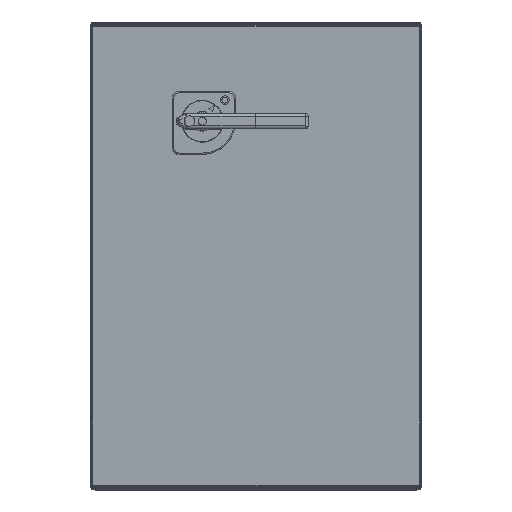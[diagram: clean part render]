
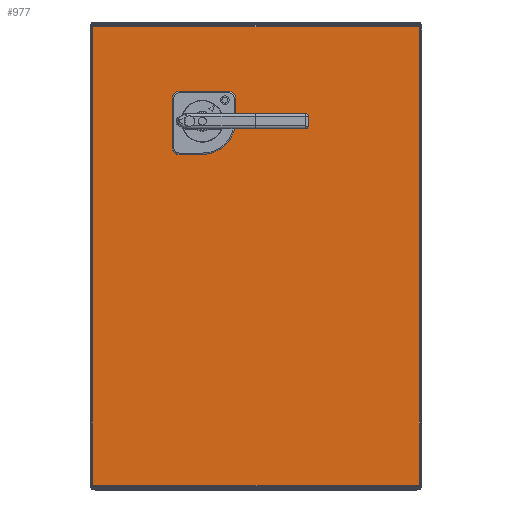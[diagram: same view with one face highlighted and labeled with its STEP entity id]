
A CAD part, top view. The second image highlights one B-rep face of the part: STEP entity #977.
In plain terms, the highlighted planar face has unit normal (0, 0, 1).
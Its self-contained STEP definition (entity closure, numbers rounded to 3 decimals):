
#977=ADVANCED_FACE('',(#1129),#1022,.T.);
#1022=PLANE('',#3140);
#1129=FACE_OUTER_BOUND('',#1254,.T.);
#1254=EDGE_LOOP('',(#1810,#1811,#1812,#1813));
#1810=ORIENTED_EDGE('',*,*,#2489,.T.);
#1811=ORIENTED_EDGE('',*,*,#2468,.F.);
#1812=ORIENTED_EDGE('',*,*,#2482,.T.);
#1813=ORIENTED_EDGE('',*,*,#2475,.F.);
#2084=VERTEX_POINT('',#5105);
#2087=VERTEX_POINT('',#5110);
#2092=VERTEX_POINT('',#5123);
#2093=VERTEX_POINT('',#5125);
#2468=EDGE_CURVE('',#2087,#2084,#2683,.T.);
#2475=EDGE_CURVE('',#2093,#2092,#2688,.T.);
#2482=EDGE_CURVE('',#2087,#2092,#2693,.T.);
#2489=EDGE_CURVE('',#2093,#2084,#2698,.T.);
#2683=LINE('',#5111,#2890);
#2688=LINE('',#5126,#2895);
#2693=LINE('',#5139,#2900);
#2698=LINE('',#5152,#2905);
#2890=VECTOR('',#3766,1.);
#2895=VECTOR('',#3779,1.);
#2900=VECTOR('',#3792,1.);
#2905=VECTOR('',#3805,1.);
#3140=AXIS2_PLACEMENT_3D('',#5160,#3813,#3814);
#3766=DIRECTION('',(-1.,0.,0.));
#3779=DIRECTION('',(1.,0.,0.));
#3792=DIRECTION('',(0.,1.,0.));
#3805=DIRECTION('',(0.,-1.,0.));
#3813=DIRECTION('',(0.,0.,1.));
#3814=DIRECTION('',(0.,1.,0.));
#5105=CARTESIAN_POINT('',(-246.,-596.,32.5));
#5110=CARTESIAN_POINT('',(246.,-596.,32.5));
#5111=CARTESIAN_POINT('',(246.,-596.,32.5));
#5123=CARTESIAN_POINT('',(246.,96.,32.5));
#5125=CARTESIAN_POINT('',(-246.,96.,32.5));
#5126=CARTESIAN_POINT('',(-246.,96.,32.5));
#5139=CARTESIAN_POINT('',(246.,-596.,32.5));
#5152=CARTESIAN_POINT('',(-246.,96.,32.5));
#5160=CARTESIAN_POINT('',(-270.6,130.6,32.5));
